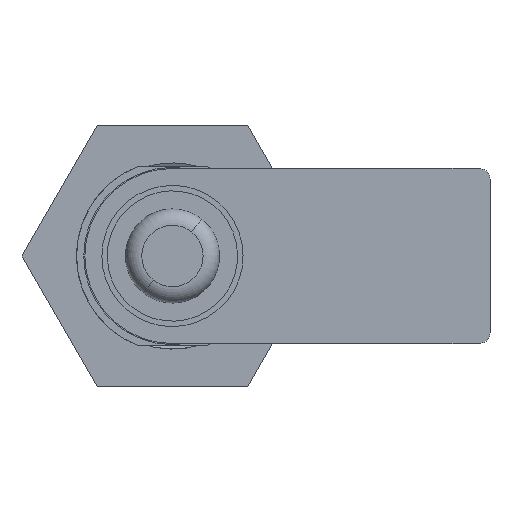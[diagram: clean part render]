
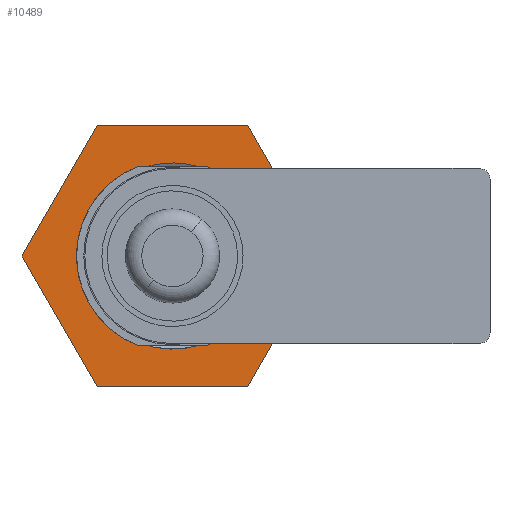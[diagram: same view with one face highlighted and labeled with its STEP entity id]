
A CAD part, front view. The second image highlights one B-rep face of the part: STEP entity #10489.
In plain terms, the highlighted planar face has unit normal (0, -1, 0).
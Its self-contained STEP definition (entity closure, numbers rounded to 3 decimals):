
#39 = AXIS2_PLACEMENT_3D ( 'NONE', #7863, #5300, #8847 ) ;
#235 = EDGE_CURVE ( 'NONE', #797, #3505, #5310, .T. ) ;
#274 = CARTESIAN_POINT ( 'NONE',  ( -3.051, 0., -7.933 ) ) ;
#374 = LINE ( 'NONE', #1173, #2077 ) ;
#392 = VERTEX_POINT ( 'NONE', #2757 ) ;
#446 = CIRCLE ( 'NONE', #7417, 8.5 ) ;
#553 = LINE ( 'NONE', #8608, #3895 ) ;
#766 = ORIENTED_EDGE ( 'NONE', *, *, #7410, .F. ) ;
#797 = VERTEX_POINT ( 'NONE', #1485 ) ;
#1009 = EDGE_CURVE ( 'NONE', #8810, #392, #7754, .T. ) ;
#1173 = CARTESIAN_POINT ( 'NONE',  ( -6.87, 0., 11.9 ) ) ;
#1302 = VERTEX_POINT ( 'NONE', #3096 ) ;
#1353 = EDGE_LOOP ( 'NONE', ( #4546, #7291 ) ) ;
#1485 = CARTESIAN_POINT ( 'NONE',  ( -6.87, 0., -11.9 ) ) ;
#1535 = CARTESIAN_POINT ( 'NONE',  ( -7.766, 0., -3.455 ) ) ;
#1575 = FACE_OUTER_BOUND ( 'NONE', #6685, .T. ) ;
#1724 = AXIS2_PLACEMENT_3D ( 'NONE', #1746, #8817, #9681 ) ;
#1746 = CARTESIAN_POINT ( 'NONE',  ( 0., 0., 0. ) ) ;
#2077 = VECTOR ( 'NONE', #7268, 1000. ) ;
#2543 = VERTEX_POINT ( 'NONE', #274 ) ;
#2608 = FACE_BOUND ( 'NONE', #1353, .T. ) ;
#2695 = CARTESIAN_POINT ( 'NONE',  ( -6.87, 0., -11.9 ) ) ;
#2757 = CARTESIAN_POINT ( 'NONE',  ( 13.741, 0., 0. ) ) ;
#2898 = CARTESIAN_POINT ( 'NONE',  ( 6.87, 0., 11.9 ) ) ;
#3096 = CARTESIAN_POINT ( 'NONE',  ( -6.87, 0., 11.9 ) ) ;
#3135 = DIRECTION ( 'NONE',  ( -0.5, 0., -0.866 ) ) ;
#3146 = CARTESIAN_POINT ( 'NONE',  ( 6.87, 0., -11.9 ) ) ;
#3386 = VECTOR ( 'NONE', #9953, 1000. ) ;
#3505 = VERTEX_POINT ( 'NONE', #9229 ) ;
#3809 = VECTOR ( 'NONE', #8686, 1000. ) ;
#3895 = VECTOR ( 'NONE', #3135, 1000. ) ;
#4098 = ORIENTED_EDGE ( 'NONE', *, *, #4778, .F. ) ;
#4450 = CIRCLE ( 'NONE', #39, 8.5 ) ;
#4546 = ORIENTED_EDGE ( 'NONE', *, *, #4846, .T. ) ;
#4549 = CARTESIAN_POINT ( 'NONE',  ( 0., 0., 0. ) ) ;
#4778 = EDGE_CURVE ( 'NONE', #4873, #797, #4954, .T. ) ;
#4846 = EDGE_CURVE ( 'NONE', #2543, #10921, #4450, .T. ) ;
#4873 = VERTEX_POINT ( 'NONE', #7922 ) ;
#4954 = LINE ( 'NONE', #3146, #7916 ) ;
#5300 = DIRECTION ( 'NONE',  ( 0., 1., 0. ) ) ;
#5310 = LINE ( 'NONE', #2695, #3809 ) ;
#5330 = ORIENTED_EDGE ( 'NONE', *, *, #1009, .F. ) ;
#5690 = ORIENTED_EDGE ( 'NONE', *, *, #8834, .F. ) ;
#6106 = CARTESIAN_POINT ( 'NONE',  ( 6.87, 0., 11.9 ) ) ;
#6155 = DIRECTION ( 'NONE',  ( 0., 0., 1. ) ) ;
#6685 = EDGE_LOOP ( 'NONE', ( #5330, #5690, #7572, #6949, #4098, #766 ) ) ;
#6949 = ORIENTED_EDGE ( 'NONE', *, *, #235, .F. ) ;
#7113 = DIRECTION ( 'NONE',  ( 0., 1., 0. ) ) ;
#7268 = DIRECTION ( 'NONE',  ( 1., 0., 0. ) ) ;
#7291 = ORIENTED_EDGE ( 'NONE', *, *, #11010, .T. ) ;
#7410 = EDGE_CURVE ( 'NONE', #392, #4873, #553, .T. ) ;
#7417 = AXIS2_PLACEMENT_3D ( 'NONE', #4549, #7113, #6155 ) ;
#7572 = ORIENTED_EDGE ( 'NONE', *, *, #10516, .F. ) ;
#7754 = LINE ( 'NONE', #6106, #10612 ) ;
#7863 = CARTESIAN_POINT ( 'NONE',  ( 0., 0., 0. ) ) ;
#7916 = VECTOR ( 'NONE', #10949, 1000. ) ;
#7922 = CARTESIAN_POINT ( 'NONE',  ( 6.87, 0., -11.9 ) ) ;
#8608 = CARTESIAN_POINT ( 'NONE',  ( 13.741, 0., 0. ) ) ;
#8686 = DIRECTION ( 'NONE',  ( -0.5, 0., 0.866 ) ) ;
#8711 = PLANE ( 'NONE',  #1724 ) ;
#8810 = VERTEX_POINT ( 'NONE', #2898 ) ;
#8817 = DIRECTION ( 'NONE',  ( 0., 1., 0. ) ) ;
#8834 = EDGE_CURVE ( 'NONE', #1302, #8810, #374, .T. ) ;
#8847 = DIRECTION ( 'NONE',  ( 0., 0., 1. ) ) ;
#8880 = CARTESIAN_POINT ( 'NONE',  ( -13.741, 0., 0. ) ) ;
#9229 = CARTESIAN_POINT ( 'NONE',  ( -13.741, 0., 0. ) ) ;
#9681 = DIRECTION ( 'NONE',  ( 0., 0., 1. ) ) ;
#9901 = LINE ( 'NONE', #8880, #3386 ) ;
#9953 = DIRECTION ( 'NONE',  ( 0.5, 0., 0.866 ) ) ;
#10489 = ADVANCED_FACE ( 'NONE', ( #1575, #2608 ), #8711, .F. ) ;
#10516 = EDGE_CURVE ( 'NONE', #3505, #1302, #9901, .T. ) ;
#10612 = VECTOR ( 'NONE', #11252, 1000. ) ;
#10921 = VERTEX_POINT ( 'NONE', #1535 ) ;
#10949 = DIRECTION ( 'NONE',  ( -1., 0., 0. ) ) ;
#11010 = EDGE_CURVE ( 'NONE', #10921, #2543, #446, .T. ) ;
#11252 = DIRECTION ( 'NONE',  ( 0.5, 0., -0.866 ) ) ;
